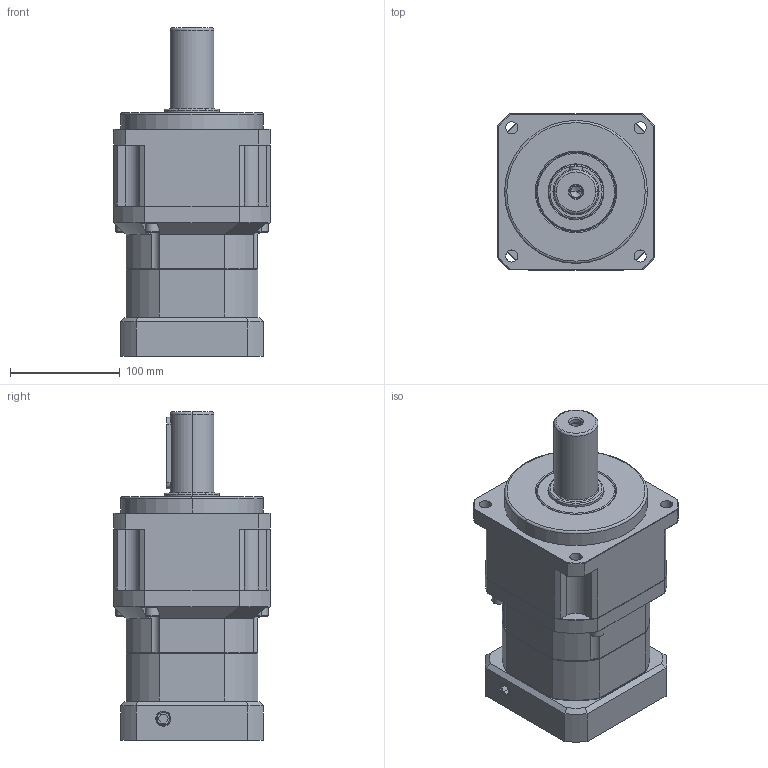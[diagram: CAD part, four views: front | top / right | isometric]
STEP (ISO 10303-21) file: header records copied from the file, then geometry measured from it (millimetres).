
FILE_DESCRIPTION (( 'STEP AP203' ), '1' );
FILE_NAME ('SB142-2-110M8.step', '2023-02-10T08:04:22', ( 'lim' ), ( '' ), 'SwSTEP 2.0', 'SolidWorks 2021', '' );
FILE_SCHEMA (( 'CONFIG_CONTROL_DESIGN' ));
Length unit declared in the file: millimetre
Products named in the file (1): SB142-2-110M8
Bounding box: 142 x 142 x 298.5 mm (x, y, z)
Volume: 3049185.4 mm3; surface area: 266927.1 mm2
Topology: 2 solids, 22 shells, 964 faces, 2268 edges, 1360 vertices
Faces by surface type: plane 355, cylinder 313, cone 199, torus 55, bspline 32, sphere 10
Entity records: 29769 total; most frequent: CARTESIAN_POINT 7706, DIRECTION 4826, ORIENTED_EDGE 4422, EDGE_CURVE 2211, AXIS2_PLACEMENT_3D 1913, VERTEX_POINT 1353, EDGE_LOOP 1068, VECTOR 1000
